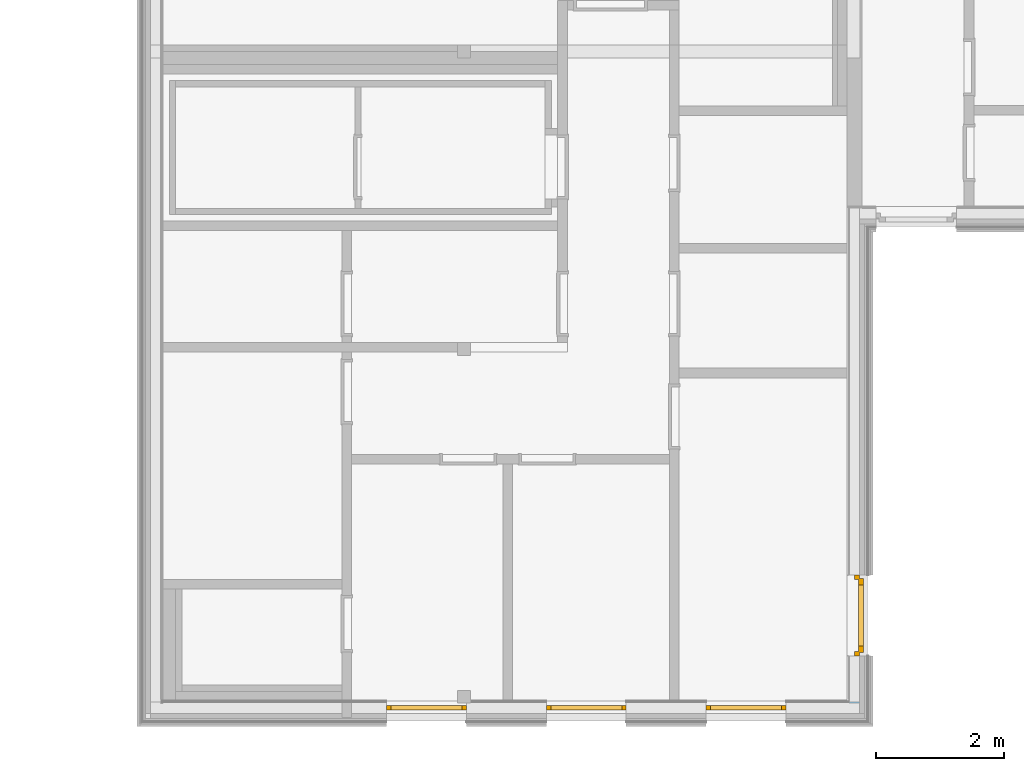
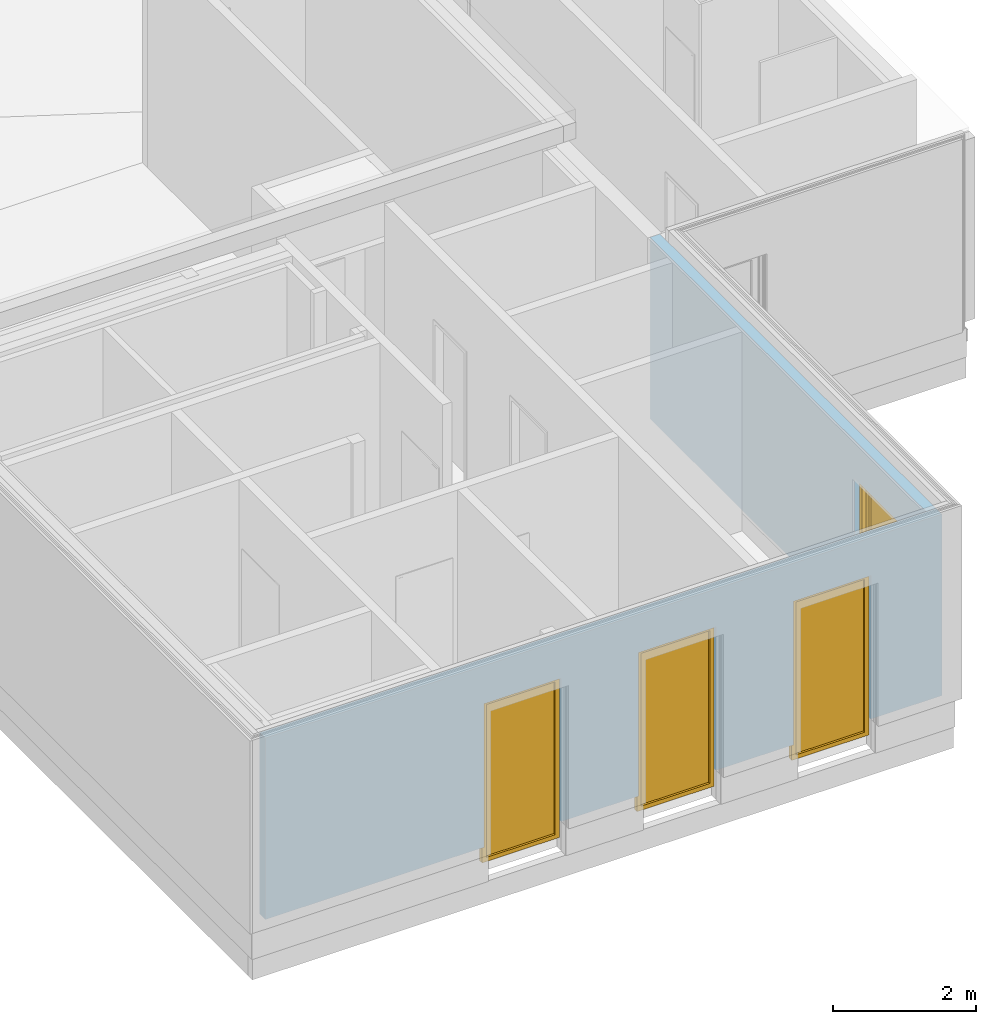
# One storey, part 9 of 23: 3 windows, 1 door, 4 openings, plus 2 elements that do not belong to this part.
"""IFC4 building model written with IfcOpenShell, lengths in metres."""

from ifc_helpers import new_model, entity, si_unit, converted_unit, derived_unit, frame, frame_2d, origin, origin_with_axes, place, context, subcontext, project, spatial, polyline, rectangle, outline, extrude, closed_shell, open_shell, surface_model, source, transform, mapped, material, type_object, element, fill, save


model = new_model("IFC4")

# Units and contexts
model_context = context("Model", 3, precision=1e-05, world=origin())
body_context = subcontext(model_context, "Body", "Model", "MODEL_VIEW")
ifc_project = project(units=[si_unit("LENGTHUNIT", "METRE"), si_unit("AREAUNIT", "SQUARE_METRE"), si_unit("VOLUMEUNIT", "CUBIC_METRE"), si_unit("MASSUNIT", "GRAM", prefix="KILO"), converted_unit("PLANEANGLEUNIT", "DEGREE", entity("IfcPlaneAngleMeasure", 0.0174532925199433), si_unit("PLANEANGLEUNIT", "RADIAN"), dimensions=[0, 0, 0, 0, 0, 0, 0]), derived_unit("THERMALTRANSMITTANCEUNIT", [(si_unit("POWERUNIT", "WATT"), 1), (si_unit("THERMODYNAMICTEMPERATUREUNIT", "KELVIN"), -1), (si_unit("LENGTHUNIT", "METRE"), -2)]), derived_unit("VOLUMETRICFLOWRATEUNIT", [(si_unit("LENGTHUNIT", "METRE"), 3), (converted_unit("TIMEUNIT", "hour", entity("IfcTimeMeasure", 3600.0), si_unit("TIMEUNIT", "SECOND"), dimensions=[0, 0, 1, 0, 0, 0, 0]), -1), (si_unit("LENGTHUNIT", "METRE"), -1)])], contexts=[model_context])

# Site, building, storey
site_placement = place(None, origin())
site = spatial("IfcSite", under=ifc_project, at=site_placement, Name="Psychiatrie Neubau Wunstorf", CompositionType="ELEMENT")
building_placement = place(site_placement, origin())
building = spatial("IfcBuilding", under=site, at=building_placement, Name="Neubau H1 Sozialzentrum", CompositionType="ELEMENT")
storey_placement = place(building_placement, frame((0.0, 0.0, 0.7)))
storey = spatial("IfcBuildingStorey", under=building, at=storey_placement, Name="H1 Ebene 0", CompositionType="ELEMENT", Elevation=0.7)

# Wall, opening, door
ifc_material_1 = material(Name="WA-HD")
wall_1_placement = place(storey_placement, frame((-5.13052750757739, 11.9562464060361, 0.3), z_axis=(0.0, 0.0, 1.0), x_axis=(3.18028107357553e-07, -0.999999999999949, 0.0)))
wall_1 = element("IfcWall", 1, at=wall_1_placement, inside=storey, material=ifc_material_1, context=body_context, shape_type="SweptSolid", body=[
    extrude(outline(polyline([(-7.72992503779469, 2.45833342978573e-06), (0.0, 2.45833342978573e-06), (5.08853048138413e-08, 0.160002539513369), (-7.72992498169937, 0.160002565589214), (-7.72992503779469, 2.45833342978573e-06)])), frame((7.72992503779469, -2.45833342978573e-06, 0.0), z_axis=(0.0, 0.0, 1.0), x_axis=(1.0, 0.0, 0.0)), (0.0, 0.0, 1.0), 3.1),
])
opening_1_placement = place(wall_1_placement, frame((5.72999998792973, 0.0, -0.5), z_axis=(0.0, 1.0, 0.0), x_axis=(0.0, 0.0, 1.0)))
opening_1 = element("IfcOpeningElement", 2, at=opening_1_placement, cuts=wall_1, Name="Türöffnung", ObjectType="Opening", context=body_context, shape_type="SweptSolid", body=[
    extrude(outline(polyline([(2.95, 1.26), (2.95, 0.0), (0.0, 0.0), (0.0, 1.26), (2.95, 1.26)])), origin_with_axes(), (0.0, 0.0, 1.0), 0.160000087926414),
])
ifc_material_2 = material(Name="TA-1F-AG-D")
door_type = type_object("IfcDoorType", Name="SMT", OperationType="SINGLE_SWING_RIGHT", ParameterTakesPrecedence=False, PredefinedType="DOOR")
shared_shape_1 = source(origin_with_axes(), body_context, "Body", "SurfaceModel", [
    surface_model("IfcShellBasedSurfaceModel", [(1.26, 0.0799995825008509, 2.95), (1.19, 0.0799995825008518, 2.95), (1.19, 0.0799995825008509, 0.2), (1.26, 0.0799995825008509, 0.2), (1.26, -4.17499150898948e-07, 0.2), (1.19, -4.17499149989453e-07, 0.2), (1.19, -4.17499149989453e-07, 2.95), (1.26, -4.17499150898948e-07, 2.95)], [closed_shell([[[0, 1, 2, 3]], [[4, 5, 6, 7]], [[3, 4, 7, 0]], [[2, 5, 4, 3]], [[1, 6, 5, 2]], [[0, 7, 6, 1]]], orient=[[False], [False], [False], [False], [False], [False]])]),
    surface_model("IfcShellBasedSurfaceModel", [(0.0699999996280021, 0.0799995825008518, 2.95), (0.0, 0.0799995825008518, 2.95), (0.0, 0.0799995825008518, 0.2), (0.0699999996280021, 0.0799995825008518, 0.2), (0.0699999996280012, -4.17499149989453e-07, 0.2), (0.0, -4.17499149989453e-07, 0.2), (0.0, -4.17499149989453e-07, 2.95), (0.0699999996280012, -4.17499149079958e-07, 2.95)], [closed_shell([[[0, 1, 2, 3]], [[4, 5, 6, 7]], [[3, 4, 7, 0]], [[2, 5, 4, 3]], [[1, 6, 5, 2]], [[0, 7, 6, 1]]], orient=[[False], [False], [False], [False], [False], [False]])]),
    surface_model("IfcShellBasedSurfaceModel", [(1.19, 0.0799995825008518, 2.95), (0.0699999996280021, 0.0799995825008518, 2.95), (0.0699999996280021, 0.0799995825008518, 2.88), (1.19, 0.0799995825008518, 2.88), (1.19, -4.17499149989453e-07, 2.88), (0.0699999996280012, -4.17499149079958e-07, 2.88), (0.0699999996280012, -4.17499149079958e-07, 2.95), (1.19, -4.17499149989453e-07, 2.95)], [closed_shell([[[0, 1, 2, 3]], [[4, 5, 6, 7]], [[3, 4, 7, 0]], [[2, 5, 4, 3]], [[1, 6, 5, 2]], [[0, 7, 6, 1]]], orient=[[False], [False], [False], [False], [False], [False]])]),
    surface_model("IfcShellBasedSurfaceModel", [(1.21, 0.139999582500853, 2.9), (1.11, 0.139999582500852, 2.9), (1.11, 0.139999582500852, 0.18), (1.21, 0.139999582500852, 0.18), (1.21, 0.0599995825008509, 0.18), (1.11, 0.05999958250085, 0.18), (1.11, 0.0599995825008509, 2.9), (1.21, 0.0599995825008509, 2.9)], [closed_shell([[[0, 1, 2, 3]], [[4, 5, 6, 7]], [[3, 4, 7, 0]], [[2, 5, 4, 3]], [[1, 6, 5, 2]], [[0, 7, 6, 1]]], orient=[[False], [False], [False], [False], [False], [False]])]),
    surface_model("IfcShellBasedSurfaceModel", [(0.149999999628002, 0.139999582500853, 2.9), (0.0499999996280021, 0.139999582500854, 2.9), (0.0499999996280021, 0.139999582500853, 0.18), (0.149999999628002, 0.139999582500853, 0.18), (0.149999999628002, 0.0599995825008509, 0.18), (0.0499999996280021, 0.0599995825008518, 0.18), (0.0499999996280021, 0.0599995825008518, 2.9), (0.149999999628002, 0.0599995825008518, 2.9)], [closed_shell([[[0, 1, 2, 3]], [[4, 5, 6, 7]], [[3, 4, 7, 0]], [[2, 5, 4, 3]], [[1, 6, 5, 2]], [[0, 7, 6, 1]]], orient=[[False], [False], [False], [False], [False], [False]])]),
    surface_model("IfcShellBasedSurfaceModel", [(1.11, 0.139999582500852, 0.3), (0.149999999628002, 0.139999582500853, 0.3), (0.149999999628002, 0.139999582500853, 0.18), (1.11, 0.139999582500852, 0.18), (1.11, 0.05999958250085, 0.18), (0.149999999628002, 0.0599995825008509, 0.18), (0.149999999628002, 0.0599995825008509, 0.3), (1.11, 0.05999958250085, 0.3)], [closed_shell([[[0, 1, 2, 3]], [[4, 5, 6, 7]], [[3, 4, 7, 0]], [[2, 5, 4, 3]], [[1, 6, 5, 2]], [[0, 7, 6, 1]]], orient=[[False], [False], [False], [False], [False], [False]])]),
    surface_model("IfcShellBasedSurfaceModel", [(1.11, 0.139999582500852, 2.9), (0.149999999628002, 0.139999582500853, 2.9), (0.149999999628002, 0.139999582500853, 2.8), (1.11, 0.139999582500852, 2.8), (1.11, 0.0599995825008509, 2.8), (0.149999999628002, 0.0599995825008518, 2.8), (0.149999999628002, 0.0599995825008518, 2.9), (1.11, 0.0599995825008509, 2.9)], [closed_shell([[[0, 1, 2, 3]], [[4, 5, 6, 7]], [[3, 4, 7, 0]], [[2, 5, 4, 3]], [[1, 6, 5, 2]], [[0, 7, 6, 1]]], orient=[[False], [False], [False], [False], [False], [False]])]),
    surface_model("IfcShellBasedSurfaceModel", [(1.11, 0.0999995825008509, 0.3), (1.11, 0.0999995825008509, 2.8), (0.149999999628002, 0.0999995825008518, 2.8), (0.149999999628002, 0.0999995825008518, 0.3)], [open_shell([[[0, 1, 2, 3]]], orient=[[False]])]),
])
door_placement = place(opening_1_placement, frame((0.0, 0.0, 0.0800001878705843), z_axis=(1.0, 0.0, 0.0), x_axis=(0.0, 1.0, -1.52863939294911e-08)))
door = element("IfcDoor", 3, at=door_placement, inside=storey, type_object=door_type, material=ifc_material_2, Name="SMT", OverallHeight=2.95, OverallWidth=1.26, context=body_context, shape_type="MappedRepresentation", body=[
    mapped(shared_shape_1, transform((0.0, 0.0, 0.0), x_axis=(1.0, 0.0, 0.0), y_axis=(0.0, 1.0, 0.0), z_axis=(0.0, 0.0, 1.0), scale=1.0)),
])
fill(opening_1, door)

# Wall, openings, windows
ifc_material_3 = material(Name="WA-HD")
wall_2_placement = place(storey_placement, frame((-4.97052496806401, 4.226321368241, 0.3), z_axis=(0.0, 0.0, 1.0), x_axis=(-1.0, 4.9935645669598e-16, 0.0)))
wall_2 = element("IfcWall", 4, at=wall_2_placement, inside=storey, material=ifc_material_3, context=body_context, shape_type="SweptSolid", body=[
    extrude(rectangle(XDim=10.9280017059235, YDim=0.159999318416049, at=frame_2d((5.46400085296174, 0.0799996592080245), x_axis=(1.0, 0.0))), origin_with_axes(), (0.0, 0.0, 1.0), 3.1),
])
opening_2_placement = place(wall_2_placement, frame((6.14800155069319, 0.0, -0.5), z_axis=(0.0, 1.0, 0.0), x_axis=(0.0, 0.0, 1.0)))
opening_2 = element("IfcOpeningElement", 5, at=opening_2_placement, cuts=wall_2, Name="Fensteröffnung", ObjectType="Opening", context=body_context, shape_type="SweptSolid", body=[
    extrude(outline(polyline([(2.95, 1.25), (2.95, 0.0), (0.0, 0.0), (0.0, 1.25), (2.95, 1.25)])), origin_with_axes(), (0.0, 0.0, 1.0), 0.159999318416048),
])
opening_3_placement = place(wall_2_placement, frame((1.14800155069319, 0.0, -0.5), z_axis=(0.0, 1.0, 0.0), x_axis=(0.0, 0.0, 1.0)))
opening_3 = element("IfcOpeningElement", 6, at=opening_3_placement, cuts=wall_2, Name="Fensteröffnung", ObjectType="Opening", context=body_context, shape_type="SweptSolid", body=[
    extrude(outline(polyline([(2.95, 1.25), (2.95, 0.0), (0.0, 0.0), (0.0, 1.25), (2.95, 1.25)])), origin_with_axes(), (0.0, 0.0, 1.0), 0.159999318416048),
])
opening_4_placement = place(wall_2_placement, frame((3.64800155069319, 0.0, -0.5), z_axis=(0.0, 1.0, 0.0), x_axis=(0.0, 0.0, 1.0)))
opening_4 = element("IfcOpeningElement", 7, at=opening_4_placement, cuts=wall_2, Name="Fensteröffnung", ObjectType="Opening", context=body_context, shape_type="SweptSolid", body=[
    extrude(outline(polyline([(2.95, 1.25), (2.95, 0.0), (0.0, 0.0), (0.0, 1.25), (2.95, 1.25)])), origin_with_axes(), (0.0, 0.0, 1.0), 0.159999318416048),
])
shared_shape_2 = source(origin_with_axes(), body_context, "Body", "SurfaceModel", [
    surface_model("IfcShellBasedSurfaceModel", [(1.25, -1.39575879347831e-06, 2.95), (1.25, -1.39575879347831e-06, 0.2), (1.18, -1.39575879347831e-06, 0.2), (1.18, -1.39575879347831e-06, 2.95), (1.25, 0.0699986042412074, 0.2), (1.25, 0.0699986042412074, 2.95), (1.18, 0.0699986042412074, 2.95), (1.18, 0.0699986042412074, 0.2)], [closed_shell([[[0, 1, 2, 3]], [[4, 5, 6, 7]], [[1, 0, 5, 4]], [[2, 1, 4, 7]], [[3, 2, 7, 6]], [[0, 3, 6, 5]]], orient=[[False], [False], [False], [False], [False], [False]])]),
    surface_model("IfcShellBasedSurfaceModel", [(0.07, -1.3957587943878e-06, 2.95), (0.07, -1.3957587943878e-06, 0.2), (0.0, -1.3957587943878e-06, 0.2), (0.0, -1.3957587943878e-06, 2.95), (0.07, 0.0699986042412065, 0.2), (0.07, 0.0699986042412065, 2.95), (0.0, 0.0699986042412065, 2.95), (0.0, 0.0699986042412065, 0.2)], [closed_shell([[[0, 1, 2, 3]], [[4, 5, 6, 7]], [[1, 0, 5, 4]], [[2, 1, 4, 7]], [[3, 2, 7, 6]], [[0, 3, 6, 5]]], orient=[[False], [False], [False], [False], [False], [False]])]),
    surface_model("IfcShellBasedSurfaceModel", [(1.18, -1.39575879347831e-06, 0.27), (1.18, -1.39575879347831e-06, 0.2), (0.07, -1.3957587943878e-06, 0.2), (0.07, -1.3957587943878e-06, 0.27), (1.18, 0.0699986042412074, 0.2), (1.18, 0.0699986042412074, 0.27), (0.07, 0.0699986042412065, 0.27), (0.07, 0.0699986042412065, 0.2)], [closed_shell([[[0, 1, 2, 3]], [[4, 5, 6, 7]], [[1, 0, 5, 4]], [[2, 1, 4, 7]], [[3, 2, 7, 6]], [[0, 3, 6, 5]]], orient=[[False], [False], [False], [False], [False], [False]])]),
    surface_model("IfcShellBasedSurfaceModel", [(1.18, -1.39575879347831e-06, 2.95), (1.18, -1.39575879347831e-06, 2.88), (0.07, -1.3957587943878e-06, 2.88), (0.07, -1.3957587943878e-06, 2.95), (1.18, 0.0699986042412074, 2.88), (1.18, 0.0699986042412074, 2.95), (0.07, 0.0699986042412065, 2.95), (0.07, 0.0699986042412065, 2.88)], [closed_shell([[[0, 1, 2, 3]], [[4, 5, 6, 7]], [[1, 0, 5, 4]], [[2, 1, 4, 7]], [[3, 2, 7, 6]], [[0, 3, 6, 5]]], orient=[[False], [False], [False], [False], [False], [False]])]),
    surface_model("IfcShellBasedSurfaceModel", [(1.18, 0.0349986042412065, 0.27), (0.07, 0.0349986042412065, 0.27), (0.07, 0.0349986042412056, 2.88), (1.18, 0.0349986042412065, 2.88)], [open_shell([[[0, 1, 2, 3]]], orient=[[False]])]),
])
window_1_placement = place(opening_2_placement, frame((0.0, 1.25, 0.108998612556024), z_axis=(1.0, 0.0, 0.0), x_axis=(0.0, -1.0, 2.28239304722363e-16)))
window_1 = element("IfcWindow", 8, at=window_1_placement, inside=storey, Name="Fenster-SmartPart", OverallHeight=2.95, OverallWidth=1.25, PartitioningType="USERDEFINED", PredefinedType="WINDOW", context=body_context, shape_type="MappedRepresentation", body=[
    mapped(shared_shape_2, transform((0.0, 0.0, 0.0), x_axis=(1.0, 0.0, 0.0), y_axis=(0.0, 1.0, 0.0), z_axis=(0.0, 0.0, 1.0), scale=1.0)),
])
fill(opening_2, window_1)
shared_shape_3 = source(origin_with_axes(), body_context, "Body", "SurfaceModel", [
    surface_model("IfcShellBasedSurfaceModel", [(1.25, -1.39575879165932e-06, 2.95), (1.25, -1.39575879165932e-06, 0.2), (1.18, -1.39575879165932e-06, 0.2), (1.18, -1.39575879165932e-06, 2.95), (1.25, 0.0699986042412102, 0.2), (1.25, 0.0699986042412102, 2.95), (1.18, 0.0699986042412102, 2.95), (1.18, 0.0699986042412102, 0.2)], [closed_shell([[[0, 1, 2, 3]], [[4, 5, 6, 7]], [[1, 0, 5, 4]], [[2, 1, 4, 7]], [[3, 2, 7, 6]], [[0, 3, 6, 5]]], orient=[[False], [False], [False], [False], [False], [False]])]),
    surface_model("IfcShellBasedSurfaceModel", [(0.07, -1.39575879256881e-06, 2.95), (0.07, -1.39575879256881e-06, 0.2), (0.0, -1.39575879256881e-06, 0.2), (0.0, -1.39575879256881e-06, 2.95), (0.07, 0.0699986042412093, 0.2), (0.07, 0.0699986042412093, 2.95), (0.0, 0.0699986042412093, 2.95), (0.0, 0.0699986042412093, 0.2)], [closed_shell([[[0, 1, 2, 3]], [[4, 5, 6, 7]], [[1, 0, 5, 4]], [[2, 1, 4, 7]], [[3, 2, 7, 6]], [[0, 3, 6, 5]]], orient=[[False], [False], [False], [False], [False], [False]])]),
    surface_model("IfcShellBasedSurfaceModel", [(1.18, -1.39575879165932e-06, 0.27), (1.18, -1.39575879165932e-06, 0.2), (0.07, -1.39575879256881e-06, 0.2), (0.07, -1.39575879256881e-06, 0.27), (1.18, 0.0699986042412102, 0.2), (1.18, 0.0699986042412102, 0.27), (0.07, 0.0699986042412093, 0.27), (0.07, 0.0699986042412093, 0.2)], [closed_shell([[[0, 1, 2, 3]], [[4, 5, 6, 7]], [[1, 0, 5, 4]], [[2, 1, 4, 7]], [[3, 2, 7, 6]], [[0, 3, 6, 5]]], orient=[[False], [False], [False], [False], [False], [False]])]),
    surface_model("IfcShellBasedSurfaceModel", [(1.18, -1.39575879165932e-06, 2.95), (1.18, -1.39575879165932e-06, 2.88), (0.07, -1.39575879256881e-06, 2.88), (0.07, -1.39575879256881e-06, 2.95), (1.18, 0.0699986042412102, 2.88), (1.18, 0.0699986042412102, 2.95), (0.07, 0.0699986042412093, 2.95), (0.07, 0.0699986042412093, 2.88)], [closed_shell([[[0, 1, 2, 3]], [[4, 5, 6, 7]], [[1, 0, 5, 4]], [[2, 1, 4, 7]], [[3, 2, 7, 6]], [[0, 3, 6, 5]]], orient=[[False], [False], [False], [False], [False], [False]])]),
    surface_model("IfcShellBasedSurfaceModel", [(1.18, 0.0349986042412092, 0.27), (0.07, 0.0349986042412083, 0.27), (0.07, 0.0349986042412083, 2.88), (1.18, 0.0349986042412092, 2.88)], [open_shell([[[0, 1, 2, 3]]], orient=[[False]])]),
])
window_2_placement = place(opening_3_placement, frame((0.0, 1.25, 0.108998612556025), z_axis=(1.0, 0.0, 0.0), x_axis=(0.0, -1.0, 2.28239304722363e-16)))
window_2 = element("IfcWindow", 9, at=window_2_placement, inside=storey, Name="Fenster-SmartPart", OverallHeight=2.95, OverallWidth=1.25, PartitioningType="USERDEFINED", PredefinedType="WINDOW", context=body_context, shape_type="MappedRepresentation", body=[
    mapped(shared_shape_3, transform((0.0, 0.0, 0.0), x_axis=(1.0, 0.0, 0.0), y_axis=(0.0, 1.0, 0.0), z_axis=(0.0, 0.0, 1.0), scale=1.0)),
])
fill(opening_3, window_2)
shared_shape_4 = source(origin_with_axes(), body_context, "Body", "SurfaceModel", [
    surface_model("IfcShellBasedSurfaceModel", [(1.25, -1.39575879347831e-06, 2.95), (1.25, -1.39575879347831e-06, 0.2), (1.18, -1.39575879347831e-06, 0.2), (1.18, -1.39575879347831e-06, 2.95), (1.25, 0.0699986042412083, 0.2), (1.25, 0.0699986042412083, 2.95), (1.18, 0.0699986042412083, 2.95), (1.18, 0.0699986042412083, 0.2)], [closed_shell([[[0, 1, 2, 3]], [[4, 5, 6, 7]], [[1, 0, 5, 4]], [[2, 1, 4, 7]], [[3, 2, 7, 6]], [[0, 3, 6, 5]]], orient=[[False], [False], [False], [False], [False], [False]])]),
    surface_model("IfcShellBasedSurfaceModel", [(0.07, -1.3957587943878e-06, 2.95), (0.07, -1.3957587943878e-06, 0.2), (0.0, -1.3957587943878e-06, 0.2), (0.0, -1.3957587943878e-06, 2.95), (0.07, 0.0699986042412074, 0.2), (0.07, 0.0699986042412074, 2.95), (0.0, 0.0699986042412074, 2.95), (0.0, 0.0699986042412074, 0.2)], [closed_shell([[[0, 1, 2, 3]], [[4, 5, 6, 7]], [[1, 0, 5, 4]], [[2, 1, 4, 7]], [[3, 2, 7, 6]], [[0, 3, 6, 5]]], orient=[[False], [False], [False], [False], [False], [False]])]),
    surface_model("IfcShellBasedSurfaceModel", [(1.18, -1.39575879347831e-06, 0.27), (1.18, -1.39575879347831e-06, 0.2), (0.07, -1.3957587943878e-06, 0.2), (0.07, -1.3957587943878e-06, 0.27), (1.18, 0.0699986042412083, 0.2), (1.18, 0.0699986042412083, 0.27), (0.07, 0.0699986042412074, 0.27), (0.07, 0.0699986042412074, 0.2)], [closed_shell([[[0, 1, 2, 3]], [[4, 5, 6, 7]], [[1, 0, 5, 4]], [[2, 1, 4, 7]], [[3, 2, 7, 6]], [[0, 3, 6, 5]]], orient=[[False], [False], [False], [False], [False], [False]])]),
    surface_model("IfcShellBasedSurfaceModel", [(1.18, -1.39575879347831e-06, 2.95), (1.18, -1.39575879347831e-06, 2.88), (0.07, -1.3957587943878e-06, 2.88), (0.07, -1.3957587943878e-06, 2.95), (1.18, 0.0699986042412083, 2.88), (1.18, 0.0699986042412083, 2.95), (0.07, 0.0699986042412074, 2.95), (0.07, 0.0699986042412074, 2.88)], [closed_shell([[[0, 1, 2, 3]], [[4, 5, 6, 7]], [[1, 0, 5, 4]], [[2, 1, 4, 7]], [[3, 2, 7, 6]], [[0, 3, 6, 5]]], orient=[[False], [False], [False], [False], [False], [False]])]),
    surface_model("IfcShellBasedSurfaceModel", [(1.18, 0.0349986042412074, 0.27), (0.07, 0.0349986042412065, 0.27), (0.07, 0.0349986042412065, 2.88), (1.18, 0.0349986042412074, 2.88)], [open_shell([[[0, 1, 2, 3]]], orient=[[False]])]),
])
window_3_placement = place(opening_4_placement, frame((0.0, 1.25, 0.108998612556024), z_axis=(1.0, 0.0, 0.0), x_axis=(0.0, -1.0, 2.28239304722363e-16)))
window_3 = element("IfcWindow", 10, at=window_3_placement, inside=storey, Name="Fenster-SmartPart", OverallHeight=2.95, OverallWidth=1.25, PartitioningType="USERDEFINED", PredefinedType="WINDOW", context=body_context, shape_type="MappedRepresentation", body=[
    mapped(shared_shape_4, transform((0.0, 0.0, 0.0), x_axis=(1.0, 0.0, 0.0), y_axis=(0.0, 1.0, 0.0), z_axis=(0.0, 0.0, 1.0), scale=1.0)),
])
fill(opening_4, window_3)

save(model, "model.ifc")
